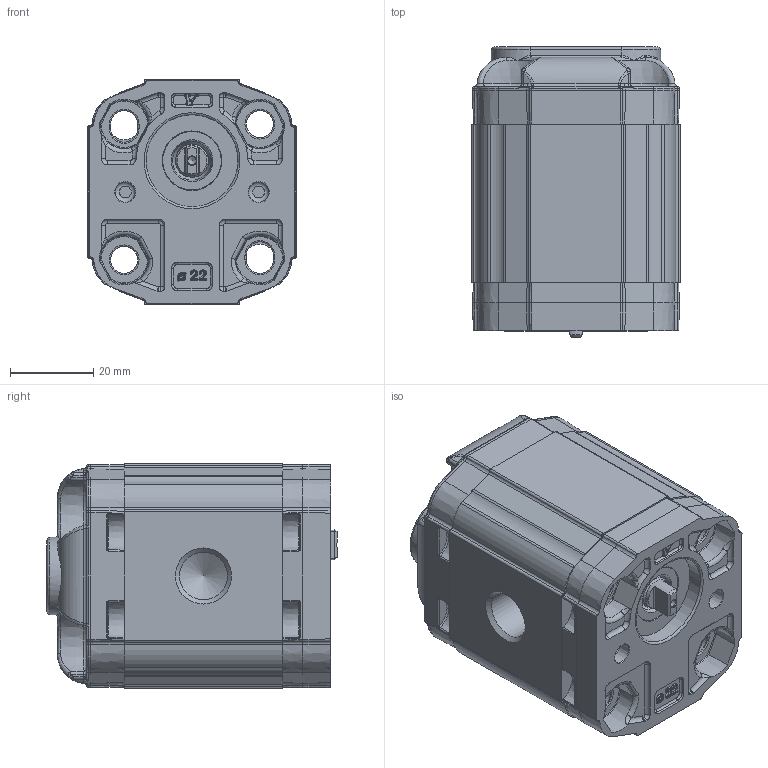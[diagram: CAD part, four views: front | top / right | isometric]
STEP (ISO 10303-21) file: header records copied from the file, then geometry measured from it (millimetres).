
FILE_DESCRIPTION(/* description */ ('Unknown'),/* implementation_level */ '2;1');
FILE_NAME(/* name */ 'X0F0924NBBA',/* time_stamp */ '2026-05-25T17:12:27+02:00',/* author */ ('Unknown'),/* organization */ ('Unknown'),/* preprocessor_version */ 'ST-DEVELOPER v16.7',/* originating_system */ 'Solid Edge',/* authorisation */ 'Unknown');
FILE_SCHEMA (('AUTOMOTIVE_DESIGN {1 0 10303 214 3 1 1}'));
Products named in the file (5): X0F0924NBBA; X0F24; 0N; X0BBH38; XF002-A
Assembly tree (4 placements, depth 2):
  X0F0924NBBA
    X0F24
    0N
    X0BBH38
    XF002-A
Bounding box: 50 x 69.5 x 54 mm (x, y, z)
Volume: 137560.2 mm3; surface area: 33732.9 mm2
Topology: 4 solids, 4 shells, 2056 faces, 4965 edges, 2927 vertices
Faces by surface type: cylinder 628, bspline 484, plane 471, cone 225, torus 188, sphere 60
Full cylindrical faces by diameter (mm): 2 x1, 6.5 x4, 6.511 x1, 6.518 x1, 7.16 x1, 7.5 x2, 7.92 x1, 11.445 x2, 13.178 x1, 14 x1, 22 x1
Entity records: 119259 total; most frequent: CARTESIAN_POINT 71626, ORIENTED_EDGE 9582, DIRECTION 8487, EDGE_CURVE 4791, AXIS2_PLACEMENT_3D 3436, VERTEX_POINT 2888, FACE_BOUND 2227, EDGE_LOOP 2224
